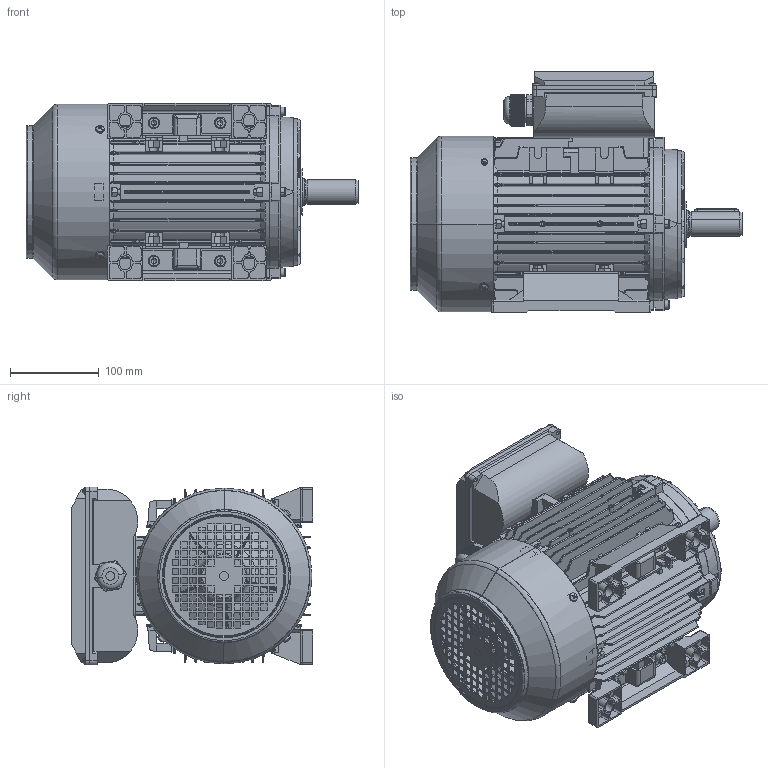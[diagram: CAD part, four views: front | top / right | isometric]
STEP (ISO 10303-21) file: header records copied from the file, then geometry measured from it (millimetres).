
FILE_DESCRIPTION (( 'STEP AP203' ), '1' );
FILE_NAME ('ML2 100 B3(臏諉盄碟).STEP', '2024-01-20T08:26:08', ( '' ), ( '' ), 'SwSTEP 2.0', 'SolidWorks 2016', '' );
FILE_SCHEMA (( 'CONFIG_CONTROL_DESIGN' ));
Length unit declared in the file: millimetre
Products named in the file (19): ML100-ML112諉盄碟釱(臏); hexagon socket head cap screws gb_GB_FASTENER_SCREWS_HSHCS M8X25-N; TA100ヶ裔1; hexagon nuts grade c gb_GB_FASTENER_NUT_SNC1 M6-N; cross recessed thread forming screws gb_GB_CROSS_SCREWS_TYPE138 M4X10-N; cross recessed thread forming screws gb_GB_CROSS_SCREWS_TYPE138 M5X12-N; plain parallel keys_GB_CONNECTING_PIECE_KEYS_CSK 8X50; T100菁褐; TA100綴傷裔; y2瑞珔100#; ML2 100 B3(臏諉盄碟); 100蛌粣; T100儂褲; hexagon nuts grade c gb_GB_FASTENER_NUT_SNC1 M8-N; ML112諉盄碟蚾饜极; TA100瑞欶; ML100-ML112諉盄碟裔(臏); 112-132堤盄蹟杶; hexagon socket head cap screws gb_GB_FASTENER_SCREWS_HSHCS M6X30-N
Assembly tree (40 placements, depth 3):
  ML2 100 B3(臏諉盄碟)
    T100儂褲
    T100菁褐  x2
    TA100瑞欶
    100蛌粣
    TA100綴傷裔
    hexagon nuts grade c gb_GB_FASTENER_NUT_SNC1 M8-N  x4
    hexagon nuts grade c gb_GB_FASTENER_NUT_SNC1 M6-N  x6
    hexagon socket head cap screws gb_GB_FASTENER_SCREWS_HSHCS M8X25-N  x4
    hexagon socket head cap screws gb_GB_FASTENER_SCREWS_HSHCS M6X30-N  x6
    cross recessed thread forming screws gb_GB_CROSS_SCREWS_TYPE138 M5X12-N  x3
    plain parallel keys_GB_CONNECTING_PIECE_KEYS_CSK 8X50
    y2瑞珔100#
    TA100ヶ裔1
    ML112諉盄碟蚾饜极
      112-132堤盄蹟杶
      cross recessed thread forming screws gb_GB_CROSS_SCREWS_TYPE138 M4X10-N  x4
      ML100-ML112諉盄碟釱(臏)
      ML100-ML112諉盄碟裔(臏)
Bounding box: 375 x 272.5 x 201 mm (x, y, z)
Volume: 1965806.8 mm3; surface area: 1195061.5 mm2
Topology: 39 solids, 39 shells, 4714 faces, 12605 edges, 7976 vertices
Faces by surface type: plane 2451, cylinder 1169, bspline 607, cone 328, torus 137, sphere 22
Entity records: 151681 total; most frequent: CARTESIAN_POINT 52637, ORIENTED_EDGE 21916, DIRECTION 17656, EDGE_CURVE 10958, VERTEX_POINT 7010, VECTOR 6042, LINE 6042, AXIS2_PLACEMENT_3D 5807
